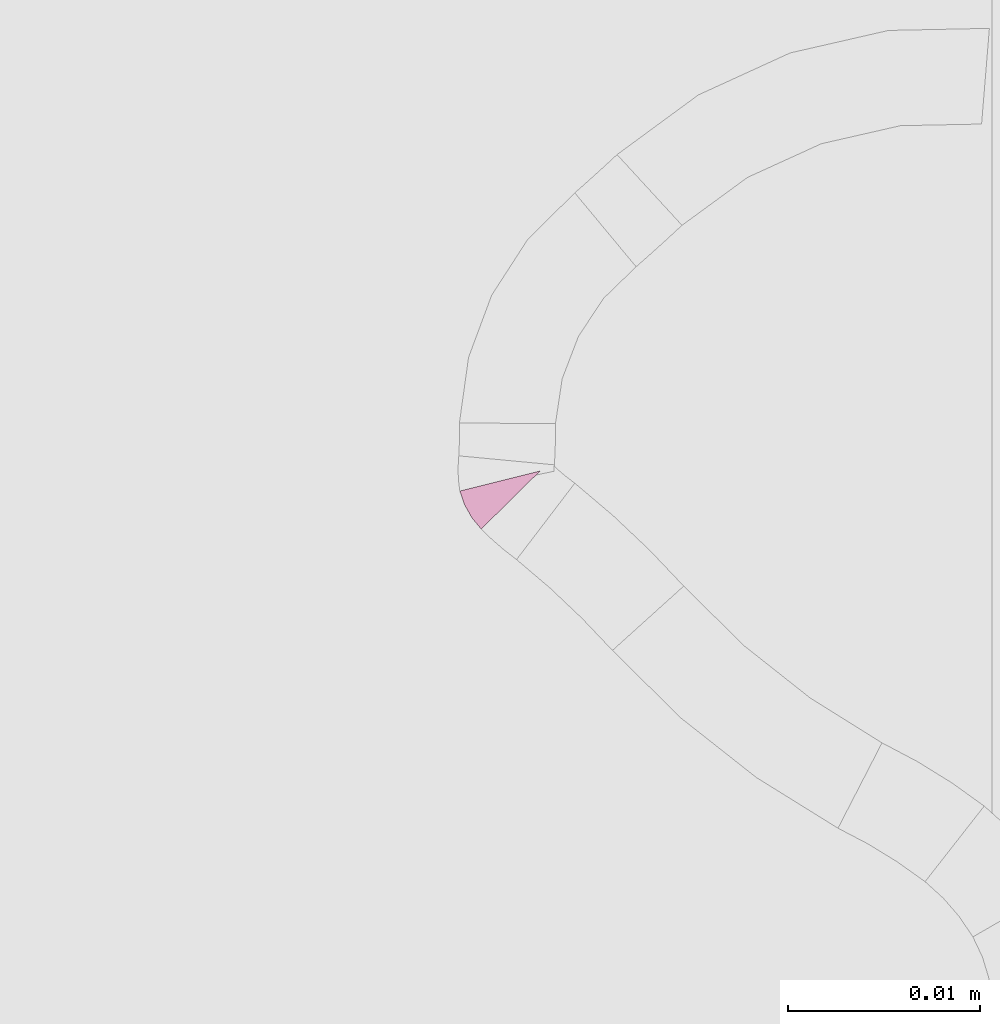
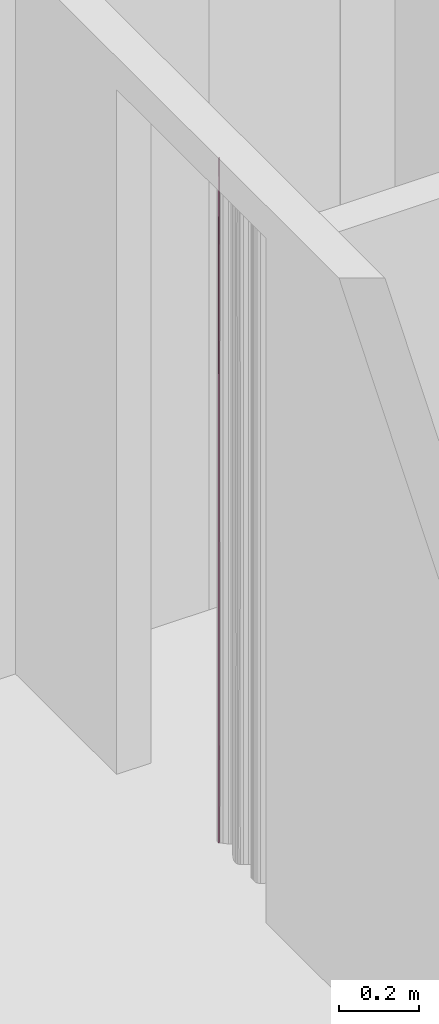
# One storey, part 220 of 418: 1 furnishing.
"""IFC2X3 building model written with IfcOpenShell, lengths in millimetres."""

from ifc_helpers import new_model, entity, si_unit, converted_unit, derived_unit, money_unit, point, direction, frame, frame_2d, origin_with_axes, place, context, subcontext, project, spatial, polyline, circle_curve, parameter, trimmed, segment, composite_curve, outline, extrude, material, type_object, element, save


model = new_model("IFC2X3")

# Units and contexts
model_context = context("Model", 3, precision=0.01, world=origin_with_axes(), true_north=direction((0.0, 1.0)))
body_context = subcontext(model_context, "Body", "Model", "MODEL_VIEW")
ifc_project = project(units=[si_unit("LENGTHUNIT", "METRE", prefix="MILLI"), si_unit("AREAUNIT", "SQUARE_METRE"), si_unit("VOLUMEUNIT", "CUBIC_METRE"), converted_unit("PLANEANGLEUNIT", "DEGREE", entity("IfcPlaneAngleMeasure", 0.0174532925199), si_unit("PLANEANGLEUNIT", "RADIAN"), dimensions=[0, 0, 0, 0, 0, 0, 0]), si_unit("SOLIDANGLEUNIT", "STERADIAN"), money_unit("EUR"), converted_unit("TIMEUNIT", "Year", entity("IfcTimeMeasure", 31556926.0), si_unit("TIMEUNIT", "SECOND"), dimensions=[0, 0, 1, 0, 0, 0, 0]), si_unit("MASSUNIT", "GRAM", prefix="KILO"), si_unit("THERMODYNAMICTEMPERATUREUNIT", "DEGREE_CELSIUS"), si_unit("LUMINOUSINTENSITYUNIT", "LUMEN"), si_unit("ENERGYUNIT", "JOULE", prefix="MEGA"), derived_unit("THERMALCONDUCTANCEUNIT", [(si_unit("POWERUNIT", "WATT"), 1), (si_unit("LENGTHUNIT", "METRE"), -1), (si_unit("THERMODYNAMICTEMPERATUREUNIT", "KELVIN"), -1)]), derived_unit("SPECIFICHEATCAPACITYUNIT", [(si_unit("ENERGYUNIT", "JOULE"), 1), (si_unit("MASSUNIT", "GRAM", prefix="KILO"), -1), (si_unit("THERMODYNAMICTEMPERATUREUNIT", "KELVIN"), -1)]), derived_unit("MASSDENSITYUNIT", [(si_unit("MASSUNIT", "GRAM", prefix="KILO"), 1), (si_unit("VOLUMEUNIT", "CUBIC_METRE"), -1)])], contexts=[model_context])

# Site, building, storey
site_placement = place(None, origin_with_axes())
site = spatial("IfcSite", under=ifc_project, at=site_placement, Name="Paldiski mnt 245/1, Tallinn, Harjumaa", CompositionType="COMPLEX")
building_placement = place(site_placement, origin_with_axes())
building = spatial("IfcBuilding", under=site, at=building_placement, Name="RKAS Hoone üldnimetus (kasutust iseloomustav) -> IFC Project Manager -> SOLIBRI", CompositionType="ELEMENT")
storey_placement = place(building_placement, origin_with_axes())
storey = spatial("IfcBuildingStorey", under=building, at=storey_placement, Name="Esimene korrus", CompositionType="ELEMENT", Elevation=0.0)

# Furnishing
ifc_material = material(Name="KON-00_GENEERILINE - KONSTRUKTSIOON")
furniture_type = type_object("IfcFurnitureType", Name="KON-00_GENEERILINE - KONSTRUKTSIOON 5", AssemblyPlace="NOTDEFINED")
furnishing_placement = place(storey_placement, frame((-45050.1109541, -1004.51333789, 0.0), z_axis=(0.0, 0.0, 1.0), x_axis=(0.242884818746, -0.97005513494, 0.0)))
element("IfcFurnishingElement", 1, at=furnishing_placement, inside=storey, type_object=furniture_type, material=ifc_material, Name="SS-69", context=body_context, shape_type="SweptSolid", body=[
    extrude(outline(composite_curve([segment(trimmed(circle_curve(frame_2d((0.0, 4.31509645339), x_axis=(0.0, -1.0)), 4.31509645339), [point((0.0, 0.0)), parameter(0.0)], [point((2.19391048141, 0.599344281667)), parameter(30.5590933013)], True, "CARTESIAN"), True, "CONTINUOUS"), segment(polyline([(2.19391048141, 0.599344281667), (0.0, 4.3150964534), (0.0, 0.0)]), True, "CONTINUOUS")], self_intersect=False)), origin_with_axes(), (0.0, 0.0, 1.0), 2100.0),
])

save(model, "model.ifc")
